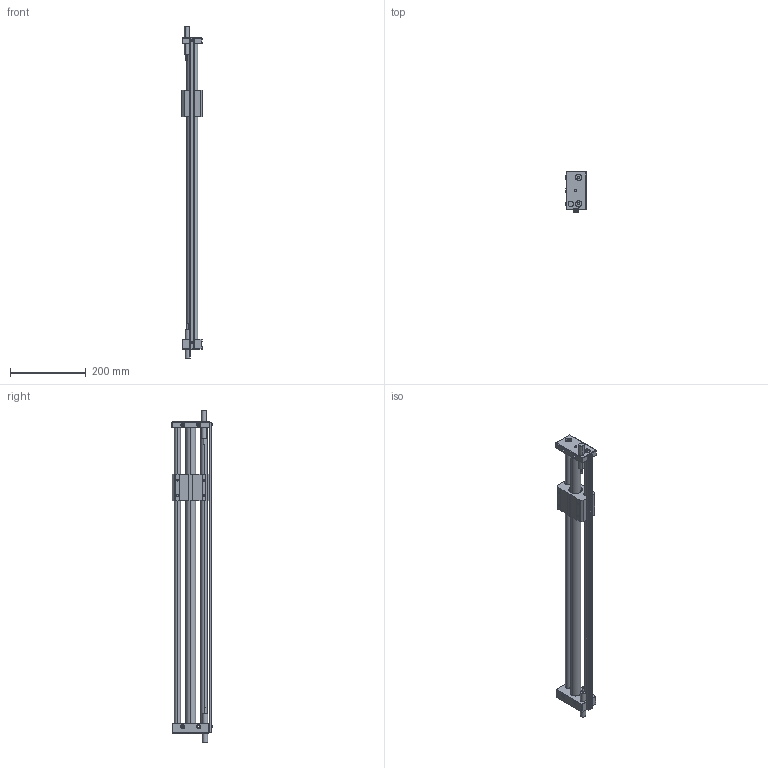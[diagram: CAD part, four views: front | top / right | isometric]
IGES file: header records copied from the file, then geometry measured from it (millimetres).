
Start section: SolidWorks IGES file using analytic representation for surfaces
Global section: file name: D:\Documents de SGA\Pieces 2D et 3D\GRU\iges\GRU 25.700.IGS; native system: SolidWorks 2010; preprocessor: SolidWorks 2010; author: SGA; date: 111216.112632; units: millimetre
Bounding box: 54 x 106.56 x 875.4 mm (x, y, z)
Surface area: 294143.1 mm2 (no closed solid volume)
Topology: 0 solids, 0 shells, 294 faces, 4396 edges, 4396 vertices
Faces by surface type: revolution 158, bspline 136
